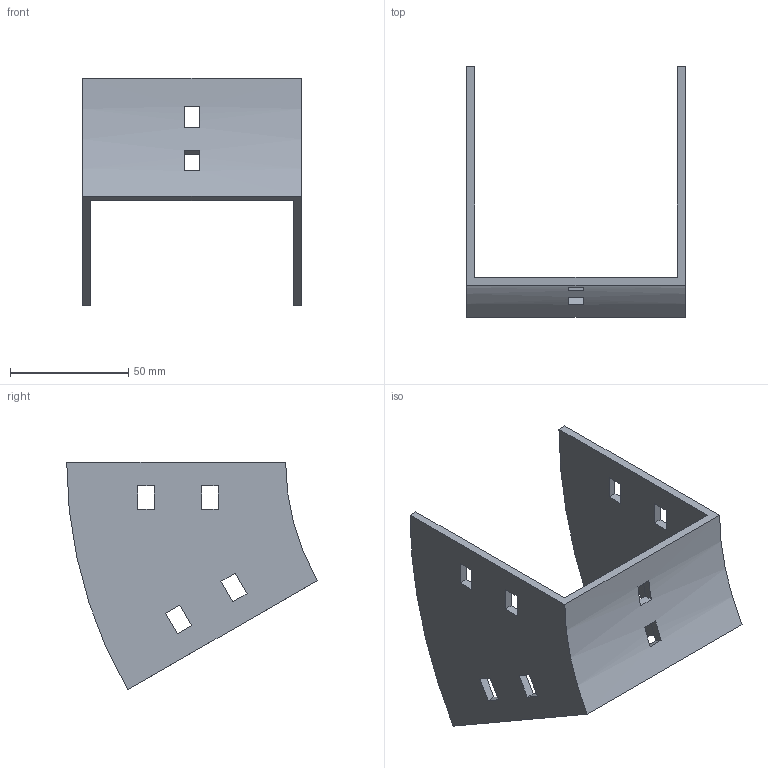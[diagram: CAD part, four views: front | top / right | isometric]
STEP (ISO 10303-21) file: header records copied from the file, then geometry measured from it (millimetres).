
FILE_DESCRIPTION (( 'STEP AP214' ), '1' );
FILE_NAME ('35B1I092.step', '2025-02-21T09:26:46', ( '' ), ( '' ), 'SwSTEP 2.0', 'SolidWorks 2023', '' );
FILE_SCHEMA (( 'AUTOMOTIVE_DESIGN' ));
Length unit declared in the file: millimetre
Products named in the file (1): 35B1I092
Bounding box: 92.5 x 105.9 x 96.25 mm (x, y, z)
Volume: 63150.9 mm3; surface area: 39850.9 mm2
Topology: 1 solids, 1 shells, 50 faces, 144 edges, 96 vertices
Faces by surface type: plane 46, cylinder 4
Entity records: 1687 total; most frequent: CARTESIAN_POINT 291, ORIENTED_EDGE 288, DIRECTION 262, EDGE_CURVE 144, VECTOR 128, LINE 128, VERTEX_POINT 96, EDGE_LOOP 70
